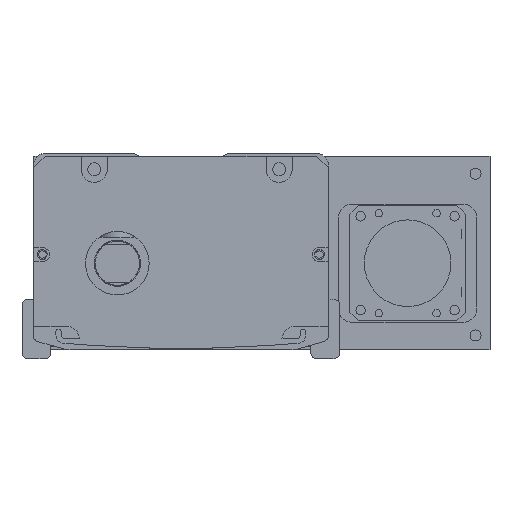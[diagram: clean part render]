
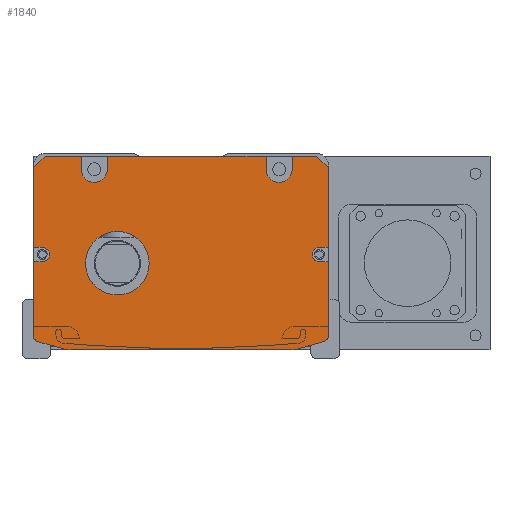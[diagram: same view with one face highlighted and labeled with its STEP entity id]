
A CAD part, front view. The second image highlights one B-rep face of the part: STEP entity #1840.
In plain terms, the highlighted planar face has unit normal (0, -1, 0).
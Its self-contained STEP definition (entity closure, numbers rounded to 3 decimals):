
#1840=ADVANCED_FACE('',(#4408,#4409),#2389,.F.);
#2389=PLANE('',#13989);
#2926=LINE('',#26900,#3723);
#2930=LINE('',#26909,#3727);
#2938=LINE('',#26936,#3735);
#2942=LINE('',#26945,#3739);
#2949=LINE('',#26961,#3746);
#2951=LINE('',#26966,#3748);
#2966=LINE('',#27009,#3763);
#2968=LINE('',#27017,#3765);
#2971=LINE('',#27021,#3768);
#2992=LINE('',#27089,#3789);
#2996=LINE('',#27098,#3793);
#3000=LINE('',#27107,#3797);
#3004=LINE('',#27116,#3801);
#3008=LINE('',#27132,#3805);
#3012=LINE('',#27138,#3809);
#3013=LINE('',#27139,#3810);
#3015=LINE('',#27155,#3812);
#3016=LINE('',#27156,#3813);
#3017=LINE('',#27157,#3814);
#3018=LINE('',#27158,#3815);
#3723=VECTOR('',#16511,1.);
#3727=VECTOR('',#16517,1.);
#3735=VECTOR('',#16539,1.);
#3739=VECTOR('',#16545,1.);
#3746=VECTOR('',#16554,1.);
#3748=VECTOR('',#16558,1.);
#3763=VECTOR('',#16597,1.);
#3765=VECTOR('',#16607,1.);
#3768=VECTOR('',#16612,1.);
#3789=VECTOR('',#16687,1.);
#3793=VECTOR('',#16693,1.);
#3797=VECTOR('',#16699,1.);
#3801=VECTOR('',#16705,1.);
#3805=VECTOR('',#16723,1.);
#3809=VECTOR('',#16727,1.);
#3810=VECTOR('',#16728,1.);
#3812=VECTOR('',#16752,1.);
#3813=VECTOR('',#16753,1.);
#3814=VECTOR('',#16754,1.);
#3815=VECTOR('',#16755,1.);
#4408=FACE_BOUND('',#5302,.T.);
#4409=FACE_BOUND('',#5303,.T.);
#5302=EDGE_LOOP('',(#7783,#7784,#7785,#7786,#7787,#7788,#7789,#7790,#7791,
#7792,#7793,#7794,#7795,#7796,#7797,#7798,#7799,#7800,#7801,#7802,#7803,
#7804,#7805,#7806,#7807,#7808,#7809,#7810));
#5303=EDGE_LOOP('',(#7811));
#7783=ORIENTED_EDGE('',*,*,#11792,.T.);
#7784=ORIENTED_EDGE('',*,*,#11669,.T.);
#7785=ORIENTED_EDGE('',*,*,#11779,.T.);
#7786=ORIENTED_EDGE('',*,*,#11696,.F.);
#7787=ORIENTED_EDGE('',*,*,#11733,.T.);
#7788=ORIENTED_EDGE('',*,*,#11698,.F.);
#7789=ORIENTED_EDGE('',*,*,#11784,.T.);
#7790=ORIENTED_EDGE('',*,*,#11685,.F.);
#7791=ORIENTED_EDGE('',*,*,#11730,.T.);
#7792=ORIENTED_EDGE('',*,*,#11689,.F.);
#7793=ORIENTED_EDGE('',*,*,#11783,.T.);
#7794=ORIENTED_EDGE('',*,*,#11673,.T.);
#7795=ORIENTED_EDGE('',*,*,#11793,.T.);
#7796=ORIENTED_EDGE('',*,*,#11763,.T.);
#7797=ORIENTED_EDGE('',*,*,#11791,.T.);
#7798=ORIENTED_EDGE('',*,*,#11759,.T.);
#7799=ORIENTED_EDGE('',*,*,#11794,.T.);
#7800=ORIENTED_EDGE('',*,*,#11716,.T.);
#7801=ORIENTED_EDGE('',*,*,#11719,.T.);
#7802=ORIENTED_EDGE('',*,*,#11722,.T.);
#7803=ORIENTED_EDGE('',*,*,#11723,.T.);
#7804=ORIENTED_EDGE('',*,*,#11679,.T.);
#7805=ORIENTED_EDGE('',*,*,#11726,.T.);
#7806=ORIENTED_EDGE('',*,*,#11681,.T.);
#7807=ORIENTED_EDGE('',*,*,#11795,.T.);
#7808=ORIENTED_EDGE('',*,*,#11771,.T.);
#7809=ORIENTED_EDGE('',*,*,#11790,.T.);
#7810=ORIENTED_EDGE('',*,*,#11767,.T.);
#7811=ORIENTED_EDGE('',*,*,#11735,.T.);
#10121=VERTEX_POINT('',#26901);
#10122=VERTEX_POINT('',#26902);
#10125=VERTEX_POINT('',#26910);
#10126=VERTEX_POINT('',#26911);
#10131=VERTEX_POINT('',#26922);
#10132=VERTEX_POINT('',#26924);
#10133=VERTEX_POINT('',#26928);
#10134=VERTEX_POINT('',#26929);
#10137=VERTEX_POINT('',#26937);
#10138=VERTEX_POINT('',#26938);
#10141=VERTEX_POINT('',#26946);
#10142=VERTEX_POINT('',#26947);
#10146=VERTEX_POINT('',#26956);
#10148=VERTEX_POINT('',#26960);
#10149=VERTEX_POINT('',#26964);
#10151=VERTEX_POINT('',#26967);
#10161=VERTEX_POINT('',#26997);
#10164=VERTEX_POINT('',#27002);
#10166=VERTEX_POINT('',#27008);
#10168=VERTEX_POINT('',#27014);
#10171=VERTEX_POINT('',#27040);
#10187=VERTEX_POINT('',#27087);
#10189=VERTEX_POINT('',#27090);
#10192=VERTEX_POINT('',#27097);
#10193=VERTEX_POINT('',#27099);
#10195=VERTEX_POINT('',#27105);
#10197=VERTEX_POINT('',#27108);
#10200=VERTEX_POINT('',#27115);
#10201=VERTEX_POINT('',#27117);
#11669=EDGE_CURVE('',#10121,#10122,#2926,.T.);
#11673=EDGE_CURVE('',#10125,#10126,#2930,.T.);
#11679=EDGE_CURVE('',#10132,#10131,#12852,.T.);
#11681=EDGE_CURVE('',#10133,#10134,#12853,.T.);
#11685=EDGE_CURVE('',#10137,#10138,#2938,.T.);
#11689=EDGE_CURVE('',#10141,#10142,#2942,.T.);
#11696=EDGE_CURVE('',#10148,#10146,#2949,.T.);
#11698=EDGE_CURVE('',#10149,#10151,#2951,.T.);
#11716=EDGE_CURVE('',#10161,#10164,#12860,.T.);
#11719=EDGE_CURVE('',#10164,#10166,#2966,.T.);
#11722=EDGE_CURVE('',#10166,#10168,#12862,.T.);
#11723=EDGE_CURVE('',#10168,#10132,#2968,.T.);
#11726=EDGE_CURVE('',#10131,#10133,#2971,.T.);
#11730=EDGE_CURVE('',#10137,#10142,#12865,.T.);
#11733=EDGE_CURVE('',#10148,#10151,#12868,.T.);
#11735=EDGE_CURVE('',#10171,#10171,#12869,.T.);
#11759=EDGE_CURVE('',#10189,#10187,#2992,.T.);
#11763=EDGE_CURVE('',#10193,#10192,#2996,.T.);
#11767=EDGE_CURVE('',#10197,#10195,#3000,.T.);
#11771=EDGE_CURVE('',#10201,#10200,#3004,.T.);
#11779=EDGE_CURVE('',#10122,#10146,#3008,.T.);
#11783=EDGE_CURVE('',#10141,#10125,#3012,.T.);
#11784=EDGE_CURVE('',#10149,#10138,#3013,.T.);
#11790=EDGE_CURVE('',#10200,#10197,#12883,.T.);
#11791=EDGE_CURVE('',#10192,#10189,#12884,.T.);
#11792=EDGE_CURVE('',#10195,#10121,#3015,.T.);
#11793=EDGE_CURVE('',#10126,#10193,#3016,.T.);
#11794=EDGE_CURVE('',#10187,#10161,#3017,.T.);
#11795=EDGE_CURVE('',#10134,#10201,#3018,.T.);
#12852=CIRCLE('',#13916,10.);
#12853=CIRCLE('',#13918,2.);
#12860=CIRCLE('',#13934,2.);
#12862=CIRCLE('',#13938,10.);
#12865=CIRCLE('',#13946,4.5);
#12868=CIRCLE('',#13951,4.5);
#12869=CIRCLE('',#13954,11.);
#12883=CIRCLE('',#13985,2.5);
#12884=CIRCLE('',#13987,2.5);
#13916=AXIS2_PLACEMENT_3D('',#26923,#16526,#16527);
#13918=AXIS2_PLACEMENT_3D('',#26927,#16531,#16532);
#13934=AXIS2_PLACEMENT_3D('',#27003,#16591,#16592);
#13938=AXIS2_PLACEMENT_3D('',#27015,#16603,#16604);
#13946=AXIS2_PLACEMENT_3D('',#27029,#16624,#16625);
#13951=AXIS2_PLACEMENT_3D('',#27035,#16634,#16635);
#13954=AXIS2_PLACEMENT_3D('',#27039,#16641,#16642);
#13985=AXIS2_PLACEMENT_3D('',#27151,#16744,#16745);
#13987=AXIS2_PLACEMENT_3D('',#27153,#16748,#16749);
#13989=AXIS2_PLACEMENT_3D('',#27159,#16756,#16757);
#16511=DIRECTION('',(-0.707,0.,0.707));
#16517=DIRECTION('',(-0.707,0.,-0.707));
#16526=DIRECTION('',(0.,-1.,0.));
#16527=DIRECTION('',(0.,0.,-1.));
#16531=DIRECTION('',(0.,-1.,0.));
#16532=DIRECTION('',(0.,0.,-1.));
#16539=DIRECTION('',(0.,0.,1.));
#16545=DIRECTION('',(0.,0.,-1.));
#16554=DIRECTION('',(0.,0.,1.));
#16558=DIRECTION('',(0.,0.,-1.));
#16591=DIRECTION('',(0.,-1.,0.));
#16592=DIRECTION('',(0.,0.,1.));
#16597=DIRECTION('',(0.963,0.,-0.269));
#16603=DIRECTION('',(0.,-1.,0.));
#16604=DIRECTION('',(0.,0.,1.));
#16607=DIRECTION('',(1.,0.,0.));
#16612=DIRECTION('',(0.963,0.,0.269));
#16624=DIRECTION('',(0.,1.,0.));
#16625=DIRECTION('',(0.,0.,1.));
#16634=DIRECTION('',(0.,1.,0.));
#16635=DIRECTION('',(0.,0.,1.));
#16641=DIRECTION('',(0.,1.,0.));
#16642=DIRECTION('',(0.,0.,1.));
#16687=DIRECTION('',(-1.,0.,0.));
#16693=DIRECTION('',(1.,0.,0.));
#16699=DIRECTION('',(1.,0.,0.));
#16705=DIRECTION('',(-1.,0.,0.));
#16723=DIRECTION('',(-1.,0.,0.));
#16727=DIRECTION('',(-1.,0.,0.));
#16728=DIRECTION('',(-1.,0.,0.));
#16744=DIRECTION('',(0.,1.,0.));
#16745=DIRECTION('',(0.,0.,1.));
#16748=DIRECTION('',(0.,1.,0.));
#16749=DIRECTION('',(0.,0.,1.));
#16752=DIRECTION('',(0.,0.,1.));
#16753=DIRECTION('',(0.,0.,-1.));
#16754=DIRECTION('',(0.,0.,-1.));
#16755=DIRECTION('',(0.,0.,1.));
#16756=DIRECTION('',(0.,1.,0.));
#16757=DIRECTION('',(-1.,0.,0.));
#26900=CARTESIAN_POINT('',(43.808,-517.5,-1.));
#26901=CARTESIAN_POINT('',(47.808,-517.5,-5.));
#26902=CARTESIAN_POINT('',(43.808,-517.5,-1.));
#26909=CARTESIAN_POINT('',(-54.192,-517.5,-5.));
#26910=CARTESIAN_POINT('',(-50.192,-517.5,-1.));
#26911=CARTESIAN_POINT('',(-54.192,-517.5,-5.));
#26922=CARTESIAN_POINT('',(37.424,-517.5,-67.631));
#26923=CARTESIAN_POINT('',(34.733,-517.5,-58.));
#26924=CARTESIAN_POINT('',(34.733,-517.5,-68.));
#26927=CARTESIAN_POINT('',(45.808,-517.5,-63.212));
#26928=CARTESIAN_POINT('',(46.346,-517.5,-65.138));
#26929=CARTESIAN_POINT('',(47.808,-517.5,-63.212));
#26936=CARTESIAN_POINT('',(-28.692,-517.5,-3.5));
#26937=CARTESIAN_POINT('',(-28.692,-517.5,-5.5));
#26938=CARTESIAN_POINT('',(-28.692,-517.5,-1.));
#26945=CARTESIAN_POINT('',(-37.692,-517.5,-1.));
#26946=CARTESIAN_POINT('',(-37.692,-517.5,-1.));
#26947=CARTESIAN_POINT('',(-37.692,-517.5,-5.5));
#26956=CARTESIAN_POINT('',(35.308,-517.5,-1.));
#26960=CARTESIAN_POINT('',(35.308,-517.5,-5.5));
#26961=CARTESIAN_POINT('',(35.308,-517.5,-1.));
#26964=CARTESIAN_POINT('',(26.308,-517.5,-1.));
#26966=CARTESIAN_POINT('',(26.308,-517.5,-1.));
#26967=CARTESIAN_POINT('',(26.308,-517.5,-5.5));
#26997=CARTESIAN_POINT('',(-54.192,-517.5,-63.212));
#27002=CARTESIAN_POINT('',(-52.731,-517.5,-65.138));
#27003=CARTESIAN_POINT('',(-52.192,-517.5,-63.212));
#27008=CARTESIAN_POINT('',(-43.809,-517.5,-67.631));
#27009=CARTESIAN_POINT('',(-55.807,-517.5,-64.279));
#27014=CARTESIAN_POINT('',(-41.118,-517.5,-68.));
#27015=CARTESIAN_POINT('',(-41.118,-517.5,-58.));
#27017=CARTESIAN_POINT('',(-54.692,-517.5,-68.));
#27021=CARTESIAN_POINT('',(49.422,-517.5,-64.279));
#27029=CARTESIAN_POINT('',(-33.192,-517.5,-5.5));
#27035=CARTESIAN_POINT('',(30.808,-517.5,-5.5));
#27039=CARTESIAN_POINT('',(-25.192,-517.5,-38.));
#27040=CARTESIAN_POINT('',(-25.192,-517.5,-27.));
#27087=CARTESIAN_POINT('',(-54.192,-517.5,-37.5));
#27089=CARTESIAN_POINT('',(-3.192,-517.5,-37.5));
#27090=CARTESIAN_POINT('',(-51.192,-517.5,-37.5));
#27097=CARTESIAN_POINT('',(-51.192,-517.5,-32.5));
#27098=CARTESIAN_POINT('',(-3.192,-517.5,-32.5));
#27099=CARTESIAN_POINT('',(-54.192,-517.5,-32.5));
#27105=CARTESIAN_POINT('',(47.808,-517.5,-32.5));
#27107=CARTESIAN_POINT('',(-3.192,-517.5,-32.5));
#27108=CARTESIAN_POINT('',(44.808,-517.5,-32.5));
#27115=CARTESIAN_POINT('',(44.808,-517.5,-37.5));
#27116=CARTESIAN_POINT('',(-3.192,-517.5,-37.5));
#27117=CARTESIAN_POINT('',(47.808,-517.5,-37.5));
#27132=CARTESIAN_POINT('',(-3.192,-517.5,-1.));
#27138=CARTESIAN_POINT('',(-54.192,-517.5,-1.));
#27139=CARTESIAN_POINT('',(-54.192,-517.5,-1.));
#27151=CARTESIAN_POINT('',(44.808,-517.5,-35.));
#27153=CARTESIAN_POINT('',(-51.192,-517.5,-35.));
#27155=CARTESIAN_POINT('',(47.808,-517.5,-1.));
#27156=CARTESIAN_POINT('',(-54.192,-517.5,-62.));
#27157=CARTESIAN_POINT('',(-54.192,-517.5,-62.));
#27158=CARTESIAN_POINT('',(47.808,-517.5,-1.));
#27159=CARTESIAN_POINT('',(-3.192,-517.5,-1.));
